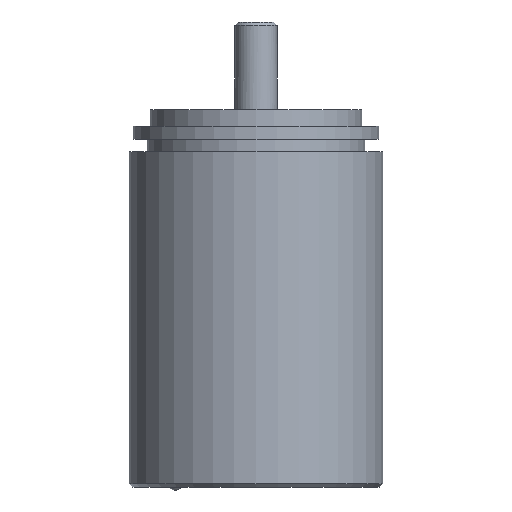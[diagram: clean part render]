
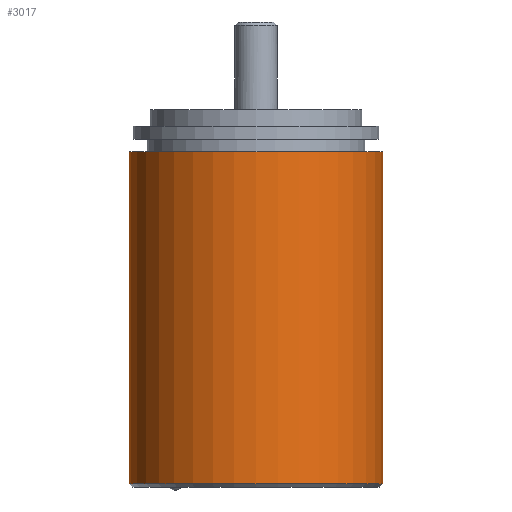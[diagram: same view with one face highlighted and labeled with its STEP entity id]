
A CAD part, front view. The second image highlights one B-rep face of the part: STEP entity #3017.
In plain terms, the highlighted cylindrical face has radius 30 mm (diameter 60 mm), a full revolution.
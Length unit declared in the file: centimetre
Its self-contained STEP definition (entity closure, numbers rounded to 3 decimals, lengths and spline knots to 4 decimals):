
#167=VECTOR('',#4918,1.);
#168=VECTOR('',#4921,1.);
#269=LINE('',#3882,#167);
#270=LINE('',#3886,#168);
#383=CYLINDRICAL_SURFACE('',#3320,3.);
#615=VERTEX_POINT('',#3878);
#616=VERTEX_POINT('',#3880);
#617=VERTEX_POINT('',#3881);
#618=VERTEX_POINT('',#3883);
#619=VERTEX_POINT('',#3885);
#620=VERTEX_POINT('',#3888);
#901=CIRCLE('',#3321,3.);
#902=CIRCLE('',#3322,3.);
#903=CIRCLE('',#3323,3.);
#904=CIRCLE('',#3324,3.);
#1140=EDGE_CURVE('',#615,#615,#901,.T.);
#1141=EDGE_CURVE('',#616,#617,#902,.T.);
#1142=EDGE_CURVE('',#617,#618,#269,.T.);
#1143=EDGE_CURVE('',#618,#619,#903,.T.);
#1144=EDGE_CURVE('',#619,#616,#270,.T.);
#1145=EDGE_CURVE('',#620,#620,#904,.T.);
#1524=ORIENTED_EDGE('',*,*,#1140,.F.);
#1525=ORIENTED_EDGE('',*,*,#1141,.T.);
#1526=ORIENTED_EDGE('',*,*,#1142,.T.);
#1527=ORIENTED_EDGE('',*,*,#1143,.T.);
#1528=ORIENTED_EDGE('',*,*,#1144,.T.);
#1529=ORIENTED_EDGE('',*,*,#1145,.F.);
#2222=EDGE_LOOP('',(#1524));
#2223=EDGE_LOOP('',(#1525,#1526,#1527,#1528));
#2224=EDGE_LOOP('',(#1529));
#2634=FACE_BOUND('',#2222,.T.);
#2635=FACE_BOUND('',#2223,.T.);
#2636=FACE_BOUND('',#2224,.T.);
#3017=ADVANCED_FACE('',(#2634,#2635,#2636),#383,.T.);
#3320=AXIS2_PLACEMENT_3D('',#3876,#4912,#4913);
#3321=AXIS2_PLACEMENT_3D('',#3877,#4914,#4915);
#3322=AXIS2_PLACEMENT_3D('',#3879,#4916,#4917);
#3323=AXIS2_PLACEMENT_3D('',#3884,#4919,#4920);
#3324=AXIS2_PLACEMENT_3D('',#3887,#4922,#4923);
#3876=CARTESIAN_POINT('',(0.,0.,0.2));
#3877=CARTESIAN_POINT('',(0.,0.,-7.44));
#3878=CARTESIAN_POINT('',(-3.,0.,-7.44));
#3879=CARTESIAN_POINT('',(0.,0.,-3.253));
#3880=CARTESIAN_POINT('',(-0.9488,2.846,-3.253));
#3881=CARTESIAN_POINT('',(0.9488,2.846,-3.253));
#3882=CARTESIAN_POINT('',(0.9488,2.846,-2.303));
#3883=CARTESIAN_POINT('',(0.9488,2.846,-1.353));
#3884=CARTESIAN_POINT('',(0.,0.,-1.353));
#3885=CARTESIAN_POINT('',(-0.9488,2.846,-1.353));
#3886=CARTESIAN_POINT('',(-0.9488,2.846,-2.303));
#3887=CARTESIAN_POINT('',(0.,0.,0.4));
#3888=CARTESIAN_POINT('',(0.,3.,0.4));
#4912=DIRECTION('',(0.,0.,1.));
#4913=DIRECTION('',(0.,3.,0.));
#4914=DIRECTION('',(0.,0.,-1.));
#4915=DIRECTION('',(3.,0.,0.));
#4916=DIRECTION('',(0.,0.,-1.));
#4917=DIRECTION('',(3.,0.,0.));
#4918=DIRECTION('',(0.,0.,1.));
#4919=DIRECTION('',(0.,0.,1.));
#4920=DIRECTION('',(3.,0.,0.));
#4921=DIRECTION('',(0.,0.,-1.));
#4922=DIRECTION('',(0.,0.,1.));
#4923=DIRECTION('',(0.,3.,0.));
